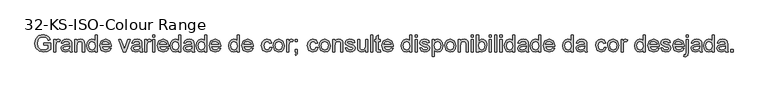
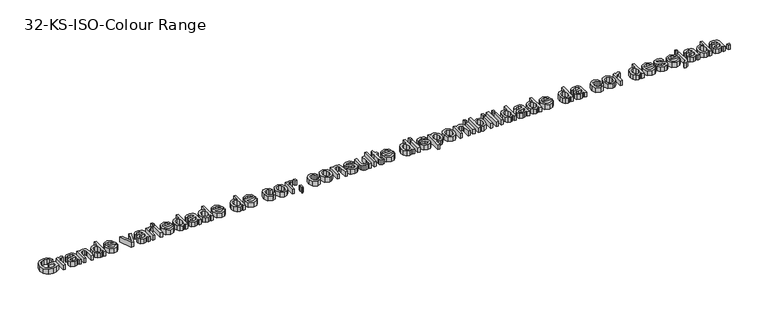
"""IFC4 building model written with IfcOpenShell, lengths in millimetres: proxy geometry, 32-KS-ISO-Colour Range : Kingspan Isoeste Color Range."""

from ifc_helpers import new_model, si_unit, origin, origin_with_axes, place, context, project, spatial, polyline, outline, extrude, source, transform, mapped, element, save


def proxy_32_ks_iso_colour_range_8220f766(model_context):
    return source(origin(), model_context, "Body", "SweptSolid", [
        extrude(outline(polyline([(-1019.1574739, 357.6650582), (-1019.1574739, 363.9435776), (-998.7522859, 363.9435776), (-998.7522859, 345.1693331), (-1008.8261212, 339.246433), (-1019.4763049, 337.2598702), (-1032.8856037, 340.417524), (-1041.9845517, 349.5593916), (-1045.0563663, 362.913508), (-1041.9968144, 376.5680614), (-1033.1983034, 385.9797091), (-1019.979077, 389.0576552), (-1010.1566277, 387.2734275), (-1003.2711031, 382.3070205), (-999.4757871, 373.9990188), (-1005.2637972, 372.3680753), (-1008.1271454, 378.1744795), (-1013.0199759, 381.5222056), (-1020.0771789, 382.7791358), (-1028.1154005, 381.4241038), (-1033.5845795, 377.8679111), (-1036.8158096, 373.0302629), (-1038.777847, 363.1710254), (-1036.4172708, 352.2265361), (-1029.5501402, 345.6782366), (-1019.979077, 343.5383896), (-1011.3890324, 345.150939), (-1005.0308053, 348.5906357), (-1005.0308053, 357.6650582), (-1019.1574739, 357.6650582)])), origin_with_axes(), (0.0, 0.0, 1.0), 15.0),
        extrude(outline(polyline([(-989.3345068, 338.0446852), (-989.3345068, 374.9309865), (-983.8408023, 374.9309865), (-983.8408023, 369.4740703), (-979.9412532, 374.5017909), (-976.0171786, 375.7158015), (-969.7141337, 373.7782896), (-971.8110611, 368.1496951), (-976.225645, 369.4372821), (-979.7757063, 368.198746), (-982.0381806, 364.7651807), (-983.0559874, 357.4320663), (-983.0559874, 338.0446852), (-989.3345068, 338.0446852)])), origin_with_axes(), (0.0, 0.0, 1.0), 15.0),
        extrude(outline(polyline([(-942.2456114, 342.7535747), (-948.3340584, 338.4984063), (-955.0601676, 337.2598702), (-964.1775097, 340.2397144), (-967.359689, 347.8548717), (-966.1579411, 352.8212786), (-963.0002873, 356.4265222), (-958.6040975, 358.4866614), (-953.1717067, 359.4308918), (-942.2823996, 361.5891328), (-943.9746568, 367.6223976), (-950.9153638, 369.4372821), (-957.2674596, 368.2294029), (-960.2963546, 363.9435776), (-966.574874, 364.7283925), (-963.8586786, 370.8597591), (-958.3894996, 374.4527399), (-950.1060234, 375.7158015), (-942.4969974, 374.5998927), (-938.1989095, 371.7978582), (-936.2736604, 367.5365584), (-935.967092, 362.042854), (-935.967092, 354.2314929), (-935.648261, 343.3237918), (-934.3974622, 338.0446852), (-940.6759816, 338.0446852), (-942.2456114, 342.7535747)]), holes=[polyline([(-942.2456114, 355.3106135), (-952.374629, 353.3853644), (-957.776363, 352.3675575), (-960.2227782, 350.7120885), (-961.0811696, 348.2963301), (-959.2111028, 344.899553), (-953.7235297, 343.5383896), (-947.3714339, 345.0405744), (-943.275681, 348.6764748), (-942.2823996, 353.5325172), (-942.2456114, 355.3106135)])]), origin_with_axes(), (0.0, 0.0, 1.0), 15.0),
        extrude(outline(polyline([(-927.3341279, 338.0446852), (-927.3341279, 374.9309865), (-921.0556085, 374.9309865), (-921.0556085, 369.7806386), (-916.2547485, 374.2320107), (-909.7003176, 375.7158015), (-903.7712861, 374.520185), (-899.7245841, 371.3809253), (-897.8422546, 366.7640062), (-897.5111608, 360.6939533), (-897.5111608, 338.0446852), (-903.7896802, 338.0446852), (-903.7896802, 359.8478247), (-904.5131814, 365.4028429), (-907.0699613, 368.3397675), (-911.380312, 369.4372821), (-918.1922603, 366.9724727), (-921.0556085, 357.6160073), (-921.0556085, 338.0446852), (-927.3341279, 338.0446852)])), origin_with_axes(), (0.0, 0.0, 1.0), 15.0),
        extrude(outline(polyline([(-866.1185639, 338.0446852), (-866.1185639, 343.9675853), (-870.2725647, 338.936799), (-876.0145896, 337.2598702), (-883.7891624, 339.6878914), (-889.2828668, 346.4630515), (-891.2326414, 356.4510476), (-889.436151, 366.4451752), (-884.0528111, 373.3245685), (-876.039115, 375.7158015), (-870.251105, 374.0051502), (-866.1185639, 369.5599094), (-866.1185639, 388.2728402), (-859.8400445, 388.2728402), (-859.8400445, 338.0446852), (-866.1185639, 338.0446852)]), holes=[polyline([(-884.954122, 356.4755731), (-882.1214307, 346.7573571), (-875.4382411, 343.5383896), (-868.8347593, 346.6102043), (-866.1185639, 355.9973265), (-868.8838102, 366.1876578), (-875.6957585, 369.4372821), (-882.3053717, 366.3164165), (-884.954122, 356.4755731)])]), origin_with_axes(), (0.0, 0.0, 1.0), 15.0),
        extrude(outline(polyline([(-824.5969494, 349.0320941), (-818.4410573, 348.2472792), (-824.1984105, 340.1416125), (-834.9221707, 337.2598702), (-847.9574561, 342.2324085), (-852.7767102, 356.1812675), (-847.9084051, 370.589979), (-835.27779, 375.7158015), (-823.0089254, 370.6022417), (-818.2448536, 356.2180557), (-818.2816418, 354.5257985), (-846.4981908, 354.5257985), (-842.8868159, 346.371081), (-834.7995434, 343.5383896), (-828.6436513, 344.8505021), (-824.5969494, 349.0320941)]), holes=[polyline([(-846.4981908, 360.8043179), (-824.523373, 360.8043179), (-827.0372333, 366.4942261), (-835.3023154, 369.4372821), (-843.0339687, 367.0889687), (-846.4981908, 360.8043179)])]), origin_with_axes(), (0.0, 0.0, 1.0), 15.0),
        extrude(outline(polyline([(-783.296064, 338.0446852), (-796.2700357, 374.9309865), (-789.6236344, 374.9309865), (-781.7632224, 352.8335414), (-779.3965149, 345.4023251), (-777.0788583, 352.4166084), (-769.1693954, 374.9309865), (-762.522994, 374.9309865), (-775.3375502, 338.0446852), (-783.296064, 338.0446852)])), origin_with_axes(), (0.0, 0.0, 1.0), 15.0),
        extrude(outline(polyline([(-733.4848419, 342.7535747), (-739.5732889, 338.4984063), (-746.2993981, 337.2598702), (-755.4167402, 340.2397144), (-758.5989194, 347.8548717), (-757.3971716, 352.8212786), (-754.2395178, 356.4265222), (-749.8433279, 358.4866614), (-744.4109371, 359.4308918), (-733.5216301, 361.5891328), (-735.2138873, 367.6223976), (-742.1545942, 369.4372821), (-748.50669, 368.2294029), (-751.5355851, 363.9435776), (-757.8141045, 364.7283925), (-755.0979091, 370.8597591), (-749.6287301, 374.4527399), (-741.3452539, 375.7158015), (-733.7362279, 374.5998927), (-729.4381399, 371.7978582), (-727.5128908, 367.5365584), (-727.2063225, 362.042854), (-727.2063225, 354.2314929), (-726.8874914, 343.3237918), (-725.6366927, 338.0446852), (-731.915212, 338.0446852), (-733.4848419, 342.7535747)]), holes=[polyline([(-733.4848419, 355.3106135), (-743.6138595, 353.3853644), (-749.0155935, 352.3675575), (-751.4620087, 350.7120885), (-752.3204, 348.2963301), (-750.4503332, 344.899553), (-744.9627601, 343.5383896), (-738.6106644, 345.0405744), (-734.5149115, 348.6764748), (-733.5216301, 353.5325172), (-733.4848419, 355.3106135)])]), origin_with_axes(), (0.0, 0.0, 1.0), 15.0),
        extrude(outline(polyline([(-718.5733584, 338.0446852), (-718.5733584, 374.9309865), (-713.0796539, 374.9309865), (-713.0796539, 369.4740703), (-709.1801047, 374.5017909), (-705.2560301, 375.7158015), (-698.9529853, 373.7782896), (-701.0499126, 368.1496951), (-705.4644966, 369.4372821), (-709.0145578, 368.198746), (-711.2770321, 364.7651807), (-712.294839, 357.4320663), (-712.294839, 338.0446852), (-718.5733584, 338.0446852)])), origin_with_axes(), (0.0, 0.0, 1.0), 15.0),
        extrude(outline(polyline([(-695.0289107, 381.9943208), (-695.0289107, 388.2728402), (-688.7503913, 388.2728402), (-688.7503913, 381.9943208), (-695.0289107, 381.9943208)])), origin_with_axes(), (0.0, 0.0, 1.0), 15.0),
        extrude(outline(polyline([(-695.0289107, 338.0446852), (-695.0289107, 374.9309865), (-688.7503913, 374.9309865), (-688.7503913, 338.0446852), (-695.0289107, 338.0446852)])), origin_with_axes(), (0.0, 0.0, 1.0), 15.0),
        extrude(outline(polyline([(-653.5072961, 349.0320941), (-647.3514041, 348.2472792), (-653.1087573, 340.1416125), (-663.8325175, 337.2598702), (-676.8678028, 342.2324085), (-681.687057, 356.1812675), (-676.8187519, 370.589979), (-664.1881367, 375.7158015), (-651.9192722, 370.6022417), (-647.1552004, 356.2180557), (-647.1919886, 354.5257985), (-675.4085376, 354.5257985), (-671.7971627, 346.371081), (-663.7098901, 343.5383896), (-657.5539981, 344.8505021), (-653.5072961, 349.0320941)]), holes=[polyline([(-675.4085376, 360.8043179), (-653.4337197, 360.8043179), (-655.94758, 366.4942261), (-664.2126622, 369.4372821), (-671.9443155, 367.0889687), (-675.4085376, 360.8043179)])]), origin_with_axes(), (0.0, 0.0, 1.0), 15.0),
        extrude(outline(polyline([(-618.1170482, 338.0446852), (-618.1170482, 343.9675853), (-622.2710491, 338.936799), (-628.0130739, 337.2598702), (-635.7876467, 339.6878914), (-641.2813512, 346.4630515), (-643.2311257, 356.4510476), (-641.4346353, 366.4451752), (-636.0512955, 373.3245685), (-628.0375993, 375.7158015), (-622.2495893, 374.0051502), (-618.1170482, 369.5599094), (-618.1170482, 388.2728402), (-611.8385288, 388.2728402), (-611.8385288, 338.0446852), (-618.1170482, 338.0446852)]), holes=[polyline([(-636.9526064, 356.4755731), (-634.119915, 346.7573571), (-627.4367254, 343.5383896), (-620.8332436, 346.6102043), (-618.1170482, 355.9973265), (-620.8822945, 366.1876578), (-627.6942428, 369.4372821), (-634.303856, 366.3164165), (-636.9526064, 356.4755731)])]), origin_with_axes(), (0.0, 0.0, 1.0), 15.0),
        extrude(outline(polyline([(-578.876302, 342.7535747), (-584.9647491, 338.4984063), (-591.6908582, 337.2598702), (-600.8082003, 340.2397144), (-603.9903796, 347.8548717), (-602.7886317, 352.8212786), (-599.6309779, 356.4265222), (-595.2347881, 358.4866614), (-589.8023973, 359.4308918), (-578.9130902, 361.5891328), (-580.6053474, 367.6223976), (-587.5460544, 369.4372821), (-593.8981502, 368.2294029), (-596.9270453, 363.9435776), (-603.2055647, 364.7283925), (-600.4893693, 370.8597591), (-595.0201903, 374.4527399), (-586.736714, 375.7158015), (-579.1276881, 374.5998927), (-574.8296001, 371.7978582), (-572.904351, 367.5365584), (-572.5977827, 362.042854), (-572.5977827, 354.2314929), (-572.2789516, 343.3237918), (-571.0281528, 338.0446852), (-577.3066722, 338.0446852), (-578.876302, 342.7535747)]), holes=[polyline([(-578.876302, 355.3106135), (-589.0053196, 353.3853644), (-594.4070536, 352.3675575), (-596.8534689, 350.7120885), (-597.7118602, 348.2963301), (-595.8417934, 344.899553), (-590.3542203, 343.5383896), (-584.0021245, 345.0405744), (-579.9063716, 348.6764748), (-578.9130902, 353.5325172), (-578.876302, 355.3106135)])]), origin_with_axes(), (0.0, 0.0, 1.0), 15.0),
        extrude(outline(polyline([(-541.2051857, 338.0446852), (-541.2051857, 343.9675853), (-545.3591866, 338.936799), (-551.1012114, 337.2598702), (-558.8757842, 339.6878914), (-564.3694887, 346.4630515), (-566.3192633, 356.4510476), (-564.5227729, 366.4451752), (-559.139433, 373.3245685), (-551.1257369, 375.7158015), (-545.3377268, 374.0051502), (-541.2051857, 369.5599094), (-541.2051857, 388.2728402), (-534.9266664, 388.2728402), (-534.9266664, 338.0446852), (-541.2051857, 338.0446852)]), holes=[polyline([(-560.0407439, 356.4755731), (-557.2080525, 346.7573571), (-550.524863, 343.5383896), (-543.9213811, 346.6102043), (-541.2051857, 355.9973265), (-543.9704321, 366.1876578), (-550.7823804, 369.4372821), (-557.3919935, 366.3164165), (-560.0407439, 356.4755731)])]), origin_with_axes(), (0.0, 0.0, 1.0), 15.0),
        extrude(outline(polyline([(-499.6835712, 349.0320941), (-493.5276792, 348.2472792), (-499.2850324, 340.1416125), (-510.0087926, 337.2598702), (-523.0440779, 342.2324085), (-527.8633321, 356.1812675), (-522.995027, 370.589979), (-510.3644118, 375.7158015), (-498.0955473, 370.6022417), (-493.3314754, 356.2180557), (-493.3682636, 354.5257985), (-521.5848127, 354.5257985), (-517.9734377, 346.371081), (-509.8861652, 343.5383896), (-503.7302732, 344.8505021), (-499.6835712, 349.0320941)]), holes=[polyline([(-521.5848127, 360.8043179), (-499.6099948, 360.8043179), (-502.1238551, 366.4942261), (-510.3889373, 369.4372821), (-518.1205905, 367.0889687), (-521.5848127, 360.8043179)])]), origin_with_axes(), (0.0, 0.0, 1.0), 15.0),
        extrude(outline(polyline([(-444.6729502, 338.0446852), (-444.6729502, 343.9675853), (-448.8269511, 338.936799), (-454.5689759, 337.2598702), (-462.3435487, 339.6878914), (-467.8372532, 346.4630515), (-469.7870277, 356.4510476), (-467.9905373, 366.4451752), (-462.6071975, 373.3245685), (-454.5935013, 375.7158015), (-448.8054913, 374.0051502), (-444.6729502, 369.5599094), (-444.6729502, 388.2728402), (-438.3944308, 388.2728402), (-438.3944308, 338.0446852), (-444.6729502, 338.0446852)]), holes=[polyline([(-463.5085084, 356.4755731), (-460.675817, 346.7573571), (-453.9926274, 343.5383896), (-447.3891456, 346.6102043), (-444.6729502, 355.9973265), (-447.4381965, 366.1876578), (-454.2501448, 369.4372821), (-460.859758, 366.3164165), (-463.5085084, 356.4755731)])]), origin_with_axes(), (0.0, 0.0, 1.0), 15.0),
        extrude(outline(polyline([(-403.1513357, 349.0320941), (-396.9954436, 348.2472792), (-402.7527969, 340.1416125), (-413.476557, 337.2598702), (-426.5118424, 342.2324085), (-431.3310965, 356.1812675), (-426.4627914, 370.589979), (-413.8321763, 375.7158015), (-401.5633117, 370.6022417), (-396.7992399, 356.2180557), (-396.8360281, 354.5257985), (-425.0525771, 354.5257985), (-421.4412022, 346.371081), (-413.3539297, 343.5383896), (-407.1980376, 344.8505021), (-403.1513357, 349.0320941)]), holes=[polyline([(-425.0525771, 360.8043179), (-403.0777593, 360.8043179), (-405.5916196, 366.4942261), (-413.8567017, 369.4372821), (-421.588355, 367.0889687), (-425.0525771, 360.8043179)])]), origin_with_axes(), (0.0, 0.0, 1.0), 15.0),
        extrude(outline(polyline([(-347.3558998, 351.3865388), (-341.0773804, 350.6017239), (-346.1173637, 340.7976688), (-356.074703, 337.2598702), (-367.9756856, 342.1956203), (-372.4699773, 356.3529458), (-370.5508595, 366.7824003), (-364.7015358, 373.483984), (-356.1605422, 375.7158015), (-346.6140044, 372.6501182), (-341.8621953, 363.9435776), (-348.1407147, 363.1587627), (-351.0531138, 367.8615209), (-356.1114912, 369.4372821), (-363.3894234, 366.3348106), (-366.1914579, 356.524624), (-363.450737, 346.622467), (-356.2831695, 343.5383896), (-350.3664007, 345.4636387), (-347.3558998, 351.3865388)])), origin_with_axes(), (0.0, 0.0, 1.0), 15.0),
        extrude(outline(polyline([(-337.1533058, 356.4878358), (-335.7952081, 365.3813831), (-331.720915, 371.6323113), (-320.6599296, 375.7158015), (-308.7957353, 370.7432632), (-304.191079, 357.0028706), (-306.2266927, 345.8315207), (-312.1557242, 339.5100818), (-320.6599296, 337.2598702), (-332.5977004, 342.2140144), (-337.1533058, 356.4878358)]), holes=[polyline([(-330.8747864, 356.5000986), (-327.9685186, 346.7696198), (-320.6599296, 343.5383896), (-313.3758661, 346.7880139), (-310.4695984, 356.6963023), (-313.3942602, 366.2060519), (-320.6599296, 369.4372821), (-327.9685186, 366.2183146), (-330.8747864, 356.5000986)])]), origin_with_axes(), (0.0, 0.0, 1.0), 15.0),
        extrude(outline(polyline([(-297.1277447, 338.0446852), (-297.1277447, 374.9309865), (-291.6340402, 374.9309865), (-291.6340402, 369.4740703), (-287.7344911, 374.5017909), (-283.8104165, 375.7158015), (-277.5073716, 373.7782896), (-279.604299, 368.1496951), (-284.0188829, 369.4372821), (-287.5689442, 368.198746), (-289.8314184, 364.7651807), (-290.8492253, 357.4320663), (-290.8492253, 338.0446852), (-297.1277447, 338.0446852)])), origin_with_axes(), (0.0, 0.0, 1.0), 15.0),
        extrude(outline(polyline([(-272.0136671, 368.6524672), (-272.0136671, 374.9309865), (-265.7351478, 374.9309865), (-265.7351478, 368.6524672), (-272.0136671, 368.6524672)])), origin_with_axes(), (0.0, 0.0, 1.0), 15.0),
        extrude(outline(polyline([(-272.0136671, 338.0446852), (-272.0136671, 344.3232045), (-265.7351478, 344.3232045), (-265.7351478, 338.0446852), (-266.8633192, 331.6251443), (-270.4440373, 327.8420912), (-272.0136671, 330.4663161), (-269.7082733, 333.0844096), (-268.8866702, 338.0446852), (-272.0136671, 338.0446852)])), origin_with_axes(), (0.0, 0.0, 1.0), 15.0),
        extrude(outline(polyline([(-210.7981031, 351.3865388), (-204.5195838, 350.6017239), (-209.5595671, 340.7976688), (-219.5169064, 337.2598702), (-231.417889, 342.1956203), (-235.9121807, 356.3529458), (-233.9930629, 366.7824003), (-228.1437392, 373.483984), (-219.6027456, 375.7158015), (-210.0562078, 372.6501182), (-205.3043987, 363.9435776), (-211.5829181, 363.1587627), (-214.4953172, 367.8615209), (-219.5536946, 369.4372821), (-226.8316268, 366.3348106), (-229.6336613, 356.524624), (-226.8929404, 346.622467), (-219.7253729, 343.5383896), (-213.8086041, 345.4636387), (-210.7981031, 351.3865388)])), origin_with_axes(), (0.0, 0.0, 1.0), 15.0),
        extrude(outline(polyline([(-200.5955091, 356.4878358), (-199.2374114, 365.3813831), (-195.1631183, 371.6323113), (-184.102133, 375.7158015), (-172.2379387, 370.7432632), (-167.6332824, 357.0028706), (-169.6688961, 345.8315207), (-175.5979276, 339.5100818), (-184.102133, 337.2598702), (-196.0399038, 342.2140144), (-200.5955091, 356.4878358)]), holes=[polyline([(-194.3169898, 356.5000986), (-191.410722, 346.7696198), (-184.102133, 343.5383896), (-176.8180695, 346.7880139), (-173.9118018, 356.6963023), (-176.8364636, 366.2060519), (-184.102133, 369.4372821), (-191.410722, 366.2183146), (-194.3169898, 356.5000986)])]), origin_with_axes(), (0.0, 0.0, 1.0), 15.0),
        extrude(outline(polyline([(-160.5699481, 338.0446852), (-160.5699481, 374.9309865), (-154.2914287, 374.9309865), (-154.2914287, 369.7806386), (-149.4905686, 374.2320107), (-142.9361378, 375.7158015), (-137.0071063, 374.520185), (-132.9604043, 371.3809253), (-131.0780748, 366.7640062), (-130.746981, 360.6939533), (-130.746981, 338.0446852), (-137.0255004, 338.0446852), (-137.0255004, 359.8478247), (-137.7490016, 365.4028429), (-140.3057815, 368.3397675), (-144.6161322, 369.4372821), (-151.4280805, 366.9724727), (-154.2914287, 357.6160073), (-154.2914287, 338.0446852), (-160.5699481, 338.0446852)])), origin_with_axes(), (0.0, 0.0, 1.0), 15.0),
        extrude(outline(polyline([(-124.4684616, 349.0320941), (-118.1899422, 349.816909), (-115.2836745, 345.1570704), (-108.6250103, 343.5383896), (-102.2238636, 345.0221803), (-100.139199, 348.5047966), (-102.2361264, 351.3252252), (-108.6985867, 353.1155842), (-118.153154, 356.1873989), (-122.2795637, 359.7742483), (-123.6836467, 364.8387571), (-122.5554752, 369.5169898), (-119.4775292, 373.0915766), (-115.4860096, 374.9493806), (-110.0842756, 375.7158015), (-102.4445928, 374.4833968), (-97.5885505, 371.1479334), (-95.4303095, 365.5132075), (-101.7088288, 364.7283925), (-104.069405, 368.1926147), (-109.5937663, 369.4372821), (-115.6025055, 368.247797), (-117.4051273, 365.4764193), (-116.6571006, 363.649272), (-114.3149185, 362.2635832), (-108.9070532, 360.9269453), (-99.6916092, 357.9716266), (-95.4119154, 354.6239004), (-93.8606796, 349.1669841), (-95.6816955, 343.1582449), (-100.9362766, 338.7988432), (-108.7108495, 337.2598702), (-119.6614702, 340.2274517), (-124.4684616, 349.0320941)])), origin_with_axes(), (0.0, 0.0, 1.0), 15.0),
        extrude(outline(polyline([(-63.2528976, 338.0446852), (-63.2528976, 344.3845182), (-68.1702536, 339.0410322), (-74.5836631, 337.2598702), (-80.4881691, 338.510669), (-84.5593965, 341.6499287), (-86.4294633, 346.2729791), (-86.7973453, 352.1100401), (-86.7973453, 374.9309865), (-80.5188259, 374.9309865), (-80.5188259, 355.0653588), (-80.1386812, 348.6642121), (-77.6554777, 344.9056844), (-72.977245, 343.5383896), (-67.7349266, 344.9363412), (-64.2707045, 348.7439198), (-63.2528976, 355.7398091), (-63.2528976, 374.9309865), (-56.9743782, 374.9309865), (-56.9743782, 338.0446852), (-63.2528976, 338.0446852)])), origin_with_axes(), (0.0, 0.0, 1.0), 15.0),
        extrude(outline(polyline([(-48.3414141, 338.0446852), (-48.3414141, 388.2728402), (-42.0628947, 388.2728402), (-42.0628947, 338.0446852), (-48.3414141, 338.0446852)])), origin_with_axes(), (0.0, 0.0, 1.0), 15.0),
        extrude(outline(polyline([(-19.3032619, 343.2808722), (-18.518447, 337.8607442), (-23.2150738, 337.2598702), (-28.4757863, 338.3022026), (-31.1000112, 341.036792), (-31.8603007, 348.16144), (-31.8603007, 368.6524672), (-36.5691902, 368.6524672), (-36.5691902, 374.9309865), (-31.8603007, 374.9309865), (-31.8603007, 383.8950445), (-25.5817813, 387.5861272), (-25.5817813, 374.9309865), (-19.3032619, 374.9309865), (-19.3032619, 368.6524672), (-25.5817813, 368.6524672), (-25.5817813, 348.345381), (-25.2506875, 345.1080195), (-22.0378514, 343.5383896), (-19.3032619, 343.2808722)])), origin_with_axes(), (0.0, 0.0, 1.0), 15.0),
        extrude(outline(polyline([(12.8005735, 349.0320941), (18.9564656, 348.2472792), (13.1991124, 340.1416125), (2.4753522, 337.2598702), (-10.5599332, 342.2324085), (-15.3791873, 356.1812675), (-10.5108822, 370.589979), (2.1197329, 375.7158015), (14.3885975, 370.6022417), (19.1526693, 356.2180557), (19.1158811, 354.5257985), (-9.1006679, 354.5257985), (-5.489293, 346.371081), (2.5979795, 343.5383896), (8.7538716, 344.8505021), (12.8005735, 349.0320941)]), holes=[polyline([(-9.1006679, 360.8043179), (12.8741499, 360.8043179), (10.3602896, 366.4942261), (2.0952075, 369.4372821), (-5.6364458, 367.0889687), (-9.1006679, 360.8043179)])]), origin_with_axes(), (0.0, 0.0, 1.0), 15.0),
        extrude(outline(polyline([(67.8111945, 338.0446852), (67.8111945, 343.9675853), (63.6571937, 338.936799), (57.9151689, 337.2598702), (50.140596, 339.6878914), (44.6468916, 346.4630515), (42.697117, 356.4510476), (44.4936074, 366.4451752), (49.8769473, 373.3245685), (57.8906434, 375.7158015), (63.6786535, 374.0051502), (67.8111945, 369.5599094), (67.8111945, 388.2728402), (74.0897139, 388.2728402), (74.0897139, 338.0446852), (67.8111945, 338.0446852)]), holes=[polyline([(48.9756364, 356.4755731), (51.8083277, 346.7573571), (58.4915173, 343.5383896), (65.0949991, 346.6102043), (67.8111945, 355.9973265), (65.0459482, 366.1876578), (58.2339999, 369.4372821), (51.6243868, 366.3164165), (48.9756364, 356.4755731)])]), origin_with_axes(), (0.0, 0.0, 1.0), 15.0),
        extrude(outline(polyline([(83.507493, 381.9943208), (83.507493, 388.2728402), (89.7860124, 388.2728402), (89.7860124, 381.9943208), (83.507493, 381.9943208)])), origin_with_axes(), (0.0, 0.0, 1.0), 15.0),
        extrude(outline(polyline([(83.507493, 338.0446852), (83.507493, 374.9309865), (89.7860124, 374.9309865), (89.7860124, 338.0446852), (83.507493, 338.0446852)])), origin_with_axes(), (0.0, 0.0, 1.0), 15.0),
        extrude(outline(polyline([(96.8493467, 349.0320941), (103.1278661, 349.816909), (106.0341338, 345.1570704), (112.692798, 343.5383896), (119.0939447, 345.0221803), (121.1786093, 348.5047966), (119.0816819, 351.3252252), (112.6192216, 353.1155842), (103.1646543, 356.1873989), (99.0382446, 359.7742483), (97.6341616, 364.8387571), (98.7623331, 369.5169898), (101.8402791, 373.0915766), (105.8317987, 374.9493806), (111.2335327, 375.7158015), (118.8732155, 374.4833968), (123.7292578, 371.1479334), (125.8874988, 365.5132075), (119.6089795, 364.7283925), (117.2484033, 368.1926147), (111.724042, 369.4372821), (105.7153028, 368.247797), (103.912681, 365.4764193), (104.6607077, 363.649272), (107.0028898, 362.2635832), (112.4107551, 360.9269453), (121.6261991, 357.9716266), (125.9058929, 354.6239004), (127.4571287, 349.1669841), (125.6361128, 343.1582449), (120.3815316, 338.7988432), (112.6069588, 337.2598702), (101.6563381, 340.2274517), (96.8493467, 349.0320941)])), origin_with_axes(), (0.0, 0.0, 1.0), 15.0),
        extrude(outline(polyline([(134.520463, 323.9180165), (134.520463, 374.9309865), (140.7989824, 374.9309865), (140.7989824, 368.7750945), (145.1399899, 373.9806247), (151.0015764, 375.7158015), (158.9600902, 373.2877803), (164.1594891, 366.4451752), (165.9130599, 356.7698787), (163.9326285, 346.5979415), (158.1814067, 339.6694973), (150.2412869, 337.2598702), (144.7782393, 338.8724196), (140.7989824, 342.9497784), (140.7989824, 323.9180165), (134.520463, 323.9180165)]), holes=[polyline([(140.7989824, 356.1935303), (143.5151778, 346.6285984), (150.1063969, 343.5383896), (156.832506, 346.738963), (159.6345405, 356.6595141), (156.899951, 366.2489715), (150.3639143, 369.4372821), (143.6991188, 366.0466364), (140.7989824, 356.1935303)])]), origin_with_axes(), (0.0, 0.0, 1.0), 15.0),
        extrude(outline(polyline([(171.4067644, 356.4878358), (172.7648621, 365.3813831), (176.8391552, 371.6323113), (187.9001405, 375.7158015), (199.7643348, 370.7432632), (204.3689911, 357.0028706), (202.3333774, 345.8315207), (196.404346, 339.5100818), (187.9001405, 337.2598702), (175.9623698, 342.2140144), (171.4067644, 356.4878358)]), holes=[polyline([(177.6852838, 356.5000986), (180.5915515, 346.7696198), (187.9001405, 343.5383896), (195.184204, 346.7880139), (198.0904718, 356.6963023), (195.1658099, 366.2060519), (187.9001405, 369.4372821), (180.5915515, 366.2183146), (177.6852838, 356.5000986)])]), origin_with_axes(), (0.0, 0.0, 1.0), 15.0),
        extrude(outline(polyline([(211.4323255, 338.0446852), (211.4323255, 374.9309865), (217.7108448, 374.9309865), (217.7108448, 369.7806386), (222.5117049, 374.2320107), (229.0661358, 375.7158015), (234.9951672, 374.520185), (239.0418692, 371.3809253), (240.9241987, 366.7640062), (241.2552925, 360.6939533), (241.2552925, 338.0446852), (234.9767731, 338.0446852), (234.9767731, 359.8478247), (234.2532719, 365.4028429), (231.696492, 368.3397675), (227.3861413, 369.4372821), (220.574193, 366.9724727), (217.7108448, 357.6160073), (217.7108448, 338.0446852), (211.4323255, 338.0446852)])), origin_with_axes(), (0.0, 0.0, 1.0), 15.0),
        extrude(outline(polyline([(249.8882567, 381.9943208), (249.8882567, 388.2728402), (256.1667761, 388.2728402), (256.1667761, 381.9943208), (249.8882567, 381.9943208)])), origin_with_axes(), (0.0, 0.0, 1.0), 15.0),
        extrude(outline(polyline([(249.8882567, 338.0446852), (249.8882567, 374.9309865), (256.1667761, 374.9309865), (256.1667761, 338.0446852), (249.8882567, 338.0446852)])), origin_with_axes(), (0.0, 0.0, 1.0), 15.0),
        extrude(outline(polyline([(271.8630745, 338.0446852), (265.5845551, 338.0446852), (265.5845551, 388.2728402), (271.8630745, 388.2728402), (271.8630745, 369.6457485), (281.722312, 375.7158015), (288.0130941, 374.3485067), (292.8936619, 370.5041399), (295.8919002, 364.5260574), (296.9771521, 357.0396588), (292.4828604, 342.4224809), (281.6855238, 337.2598702), (276.1029145, 338.9245363), (271.8630745, 343.9185343), (271.8630745, 338.0446852)]), holes=[polyline([(271.8630745, 356.7453532), (273.5798572, 347.9652363), (281.1459635, 343.5383896), (287.8659413, 346.8002766), (290.6986327, 356.524624), (287.9824373, 366.2857597), (281.4157437, 369.4372821), (274.6957659, 366.1753951), (271.8630745, 356.7453532)])]), origin_with_axes(), (0.0, 0.0, 1.0), 15.0),
        extrude(outline(polyline([(304.0404864, 381.9943208), (304.0404864, 388.2728402), (310.3190058, 388.2728402), (310.3190058, 381.9943208), (304.0404864, 381.9943208)])), origin_with_axes(), (0.0, 0.0, 1.0), 15.0),
        extrude(outline(polyline([(304.0404864, 338.0446852), (304.0404864, 374.9309865), (310.3190058, 374.9309865), (310.3190058, 338.0446852), (304.0404864, 338.0446852)])), origin_with_axes(), (0.0, 0.0, 1.0), 15.0),
        extrude(outline(polyline([(319.7367848, 338.0446852), (319.7367848, 388.2728402), (326.0153042, 388.2728402), (326.0153042, 338.0446852), (319.7367848, 338.0446852)])), origin_with_axes(), (0.0, 0.0, 1.0), 15.0),
        extrude(outline(polyline([(335.4330833, 381.9943208), (335.4330833, 388.2728402), (341.7116027, 388.2728402), (341.7116027, 381.9943208), (335.4330833, 381.9943208)])), origin_with_axes(), (0.0, 0.0, 1.0), 15.0),
        extrude(outline(polyline([(335.4330833, 338.0446852), (335.4330833, 374.9309865), (341.7116027, 374.9309865), (341.7116027, 338.0446852), (335.4330833, 338.0446852)])), origin_with_axes(), (0.0, 0.0, 1.0), 15.0),
        extrude(outline(polyline([(373.8890145, 338.0446852), (373.8890145, 343.9675853), (369.7350137, 338.936799), (363.9929889, 337.2598702), (356.218416, 339.6878914), (350.7247116, 346.4630515), (348.774937, 356.4510476), (350.5714274, 366.4451752), (355.9547673, 373.3245685), (363.9684634, 375.7158015), (369.7564734, 374.0051502), (373.8890145, 369.5599094), (373.8890145, 388.2728402), (380.1675339, 388.2728402), (380.1675339, 338.0446852), (373.8890145, 338.0446852)]), holes=[polyline([(355.0534564, 356.4755731), (357.8861477, 346.7573571), (364.5693373, 343.5383896), (371.1728191, 346.6102043), (373.8890145, 355.9973265), (371.1237682, 366.1876578), (364.3118199, 369.4372821), (357.7022067, 366.3164165), (355.0534564, 356.4755731)])]), origin_with_axes(), (0.0, 0.0, 1.0), 15.0),
        extrude(outline(polyline([(413.1297607, 342.7535747), (407.0413137, 338.4984063), (400.3152045, 337.2598702), (391.1978624, 340.2397144), (388.0156831, 347.8548717), (389.217431, 352.8212786), (392.3750848, 356.4265222), (396.7712746, 358.4866614), (402.2036654, 359.4308918), (413.0929725, 361.5891328), (411.4007153, 367.6223976), (404.4600083, 369.4372821), (398.1079125, 368.2294029), (395.0790174, 363.9435776), (388.8004981, 364.7283925), (391.5166935, 370.8597591), (396.9858725, 374.4527399), (405.2693487, 375.7158015), (412.8783746, 374.5998927), (417.1764626, 371.7978582), (419.1017117, 367.5365584), (419.4082801, 362.042854), (419.4082801, 354.2314929), (419.7271111, 343.3237918), (420.9779099, 338.0446852), (414.6993905, 338.0446852), (413.1297607, 342.7535747)]), holes=[polyline([(413.1297607, 355.3106135), (403.0007431, 353.3853644), (397.5990091, 352.3675575), (395.1525938, 350.7120885), (394.2942025, 348.2963301), (396.1642693, 344.899553), (401.6518424, 343.5383896), (408.0039382, 345.0405744), (412.0996911, 348.6764748), (413.0929725, 353.5325172), (413.1297607, 355.3106135)])]), origin_with_axes(), (0.0, 0.0, 1.0), 15.0),
        extrude(outline(polyline([(450.800877, 338.0446852), (450.800877, 343.9675853), (446.6468761, 338.936799), (440.9048513, 337.2598702), (433.1302785, 339.6878914), (427.636574, 346.4630515), (425.6867994, 356.4510476), (427.4832899, 366.4451752), (432.8666297, 373.3245685), (440.8803258, 375.7158015), (446.6683359, 374.0051502), (450.800877, 369.5599094), (450.800877, 388.2728402), (457.0793964, 388.2728402), (457.0793964, 338.0446852), (450.800877, 338.0446852)]), holes=[polyline([(431.9653188, 356.4755731), (434.7980102, 346.7573571), (441.4811998, 343.5383896), (448.0846816, 346.6102043), (450.800877, 355.9973265), (448.0356307, 366.1876578), (441.2236824, 369.4372821), (434.6140692, 366.3164165), (431.9653188, 356.4755731)])]), origin_with_axes(), (0.0, 0.0, 1.0), 15.0),
        extrude(outline(polyline([(492.3224915, 349.0320941), (498.4783836, 348.2472792), (492.7210303, 340.1416125), (481.9972702, 337.2598702), (468.9619848, 342.2324085), (464.1427307, 356.1812675), (469.0110357, 370.589979), (481.6416509, 375.7158015), (493.9105155, 370.6022417), (498.6745873, 356.2180557), (498.6377991, 354.5257985), (470.4212501, 354.5257985), (474.032625, 346.371081), (482.1198975, 343.5383896), (488.2757896, 344.8505021), (492.3224915, 349.0320941)]), holes=[polyline([(470.4212501, 360.8043179), (492.3960679, 360.8043179), (489.8822076, 366.4942261), (481.6171254, 369.4372821), (473.8854722, 367.0889687), (470.4212501, 360.8043179)])]), origin_with_axes(), (0.0, 0.0, 1.0), 15.0),
        extrude(outline(polyline([(547.3331125, 338.0446852), (547.3331125, 343.9675853), (543.1791117, 338.936799), (537.4370868, 337.2598702), (529.662514, 339.6878914), (524.1688096, 346.4630515), (522.219035, 356.4510476), (524.0155254, 366.4451752), (529.3988653, 373.3245685), (537.4125614, 375.7158015), (543.2005714, 374.0051502), (547.3331125, 369.5599094), (547.3331125, 388.2728402), (553.6116319, 388.2728402), (553.6116319, 338.0446852), (547.3331125, 338.0446852)]), holes=[polyline([(528.4975544, 356.4755731), (531.3302457, 346.7573571), (538.0134353, 343.5383896), (544.6169171, 346.6102043), (547.3331125, 355.9973265), (544.5678662, 366.1876578), (537.7559179, 369.4372821), (531.1463047, 366.3164165), (528.4975544, 356.4755731)])]), origin_with_axes(), (0.0, 0.0, 1.0), 15.0),
        extrude(outline(polyline([(586.5738587, 342.7535747), (580.4854117, 338.4984063), (573.7593025, 337.2598702), (564.6419604, 340.2397144), (561.4597811, 347.8548717), (562.661529, 352.8212786), (565.8191828, 356.4265222), (570.2153726, 358.4866614), (575.6477634, 359.4308918), (586.5370705, 361.5891328), (584.8448133, 367.6223976), (577.9041063, 369.4372821), (571.5520105, 368.2294029), (568.5231154, 363.9435776), (562.2445961, 364.7283925), (564.9607915, 370.8597591), (570.4299704, 374.4527399), (578.7134467, 375.7158015), (586.3224726, 374.5998927), (590.6205606, 371.7978582), (592.5458097, 367.5365584), (592.8523781, 362.042854), (592.8523781, 354.2314929), (593.1712091, 343.3237918), (594.4220079, 338.0446852), (588.1434885, 338.0446852), (586.5738587, 342.7535747)]), holes=[polyline([(586.5738587, 355.3106135), (576.4448411, 353.3853644), (571.0431071, 352.3675575), (568.5966918, 350.7120885), (567.7383005, 348.2963301), (569.6083673, 344.899553), (575.0959404, 343.5383896), (581.4480362, 345.0405744), (585.5437891, 348.6764748), (586.5370705, 353.5325172), (586.5738587, 355.3106135)])]), origin_with_axes(), (0.0, 0.0, 1.0), 15.0),
        extrude(outline(polyline([(644.650163, 351.3865388), (650.9286824, 350.6017239), (645.888699, 340.7976688), (635.9313597, 337.2598702), (624.0303771, 342.1956203), (619.5360854, 356.3529458), (621.4552032, 366.7824003), (627.3045269, 373.483984), (635.8455206, 375.7158015), (645.3920583, 372.6501182), (650.1438674, 363.9435776), (643.8653481, 363.1587627), (640.9529489, 367.8615209), (635.8945715, 369.4372821), (628.6166394, 366.3348106), (625.8146048, 356.524624), (628.5553257, 346.622467), (635.7228932, 343.5383896), (641.639662, 345.4636387), (644.650163, 351.3865388)])), origin_with_axes(), (0.0, 0.0, 1.0), 15.0),
        extrude(outline(polyline([(654.852757, 356.4878358), (656.2108547, 365.3813831), (660.2851478, 371.6323113), (671.3461331, 375.7158015), (683.2103274, 370.7432632), (687.8149837, 357.0028706), (685.77937, 345.8315207), (679.8503385, 339.5100818), (671.3461331, 337.2598702), (659.4083623, 342.2140144), (654.852757, 356.4878358)]), holes=[polyline([(661.1312764, 356.5000986), (664.0375441, 346.7696198), (671.3461331, 343.5383896), (678.6301966, 346.7880139), (681.5364644, 356.6963023), (678.6118025, 366.2060519), (671.3461331, 369.4372821), (664.0375441, 366.2183146), (661.1312764, 356.5000986)])]), origin_with_axes(), (0.0, 0.0, 1.0), 15.0),
        extrude(outline(polyline([(694.8783181, 338.0446852), (694.8783181, 374.9309865), (700.3720225, 374.9309865), (700.3720225, 369.4740703), (704.2715717, 374.5017909), (708.1956463, 375.7158015), (714.4986911, 373.7782896), (712.4017638, 368.1496951), (707.9871798, 369.4372821), (704.4371186, 368.198746), (702.1746443, 364.7651807), (701.1568374, 357.4320663), (701.1568374, 338.0446852), (694.8783181, 338.0446852)])), origin_with_axes(), (0.0, 0.0, 1.0), 15.0),
        extrude(outline(polyline([(760.8027716, 338.0446852), (760.8027716, 343.9675853), (756.6487707, 338.936799), (750.9067459, 337.2598702), (743.1321731, 339.6878914), (737.6384686, 346.4630515), (735.688694, 356.4510476), (737.4851845, 366.4451752), (742.8685243, 373.3245685), (750.8822205, 375.7158015), (756.6702305, 374.0051502), (760.8027716, 369.5599094), (760.8027716, 388.2728402), (767.081291, 388.2728402), (767.081291, 338.0446852), (760.8027716, 338.0446852)]), holes=[polyline([(741.9672134, 356.4755731), (744.7999048, 346.7573571), (751.4830944, 343.5383896), (758.0865762, 346.6102043), (760.8027716, 355.9973265), (758.0375253, 366.1876578), (751.225577, 369.4372821), (744.6159638, 366.3164165), (741.9672134, 356.4755731)])]), origin_with_axes(), (0.0, 0.0, 1.0), 15.0),
        extrude(outline(polyline([(802.3243861, 349.0320941), (808.4802782, 348.2472792), (802.7229249, 340.1416125), (791.9991648, 337.2598702), (778.9638794, 342.2324085), (774.1446253, 356.1812675), (779.0129303, 370.589979), (791.6435455, 375.7158015), (803.9124101, 370.6022417), (808.6764819, 356.2180557), (808.6396937, 354.5257985), (780.4231447, 354.5257985), (784.0345196, 346.371081), (792.1217921, 343.5383896), (798.2776842, 344.8505021), (802.3243861, 349.0320941)]), holes=[polyline([(780.4231447, 360.8043179), (802.3979625, 360.8043179), (799.8841022, 366.4942261), (791.61902, 369.4372821), (783.8873668, 367.0889687), (780.4231447, 360.8043179)])]), origin_with_axes(), (0.0, 0.0, 1.0), 15.0),
        extrude(outline(polyline([(812.6005565, 349.0320941), (818.8790759, 349.816909), (821.7853437, 345.1570704), (828.4440078, 343.5383896), (834.8451545, 345.0221803), (836.9298191, 348.5047966), (834.8328917, 351.3252252), (828.3704314, 353.1155842), (818.9158641, 356.1873989), (814.7894544, 359.7742483), (813.3853714, 364.8387571), (814.5135429, 369.5169898), (817.5914889, 373.0915766), (821.5830086, 374.9493806), (826.9847425, 375.7158015), (834.6244253, 374.4833968), (839.4804676, 371.1479334), (841.6387087, 365.5132075), (835.3601893, 364.7283925), (832.9996131, 368.1926147), (827.4752518, 369.4372821), (821.4665126, 368.247797), (819.6638908, 365.4764193), (820.4119175, 363.649272), (822.7540996, 362.2635832), (828.1619649, 360.9269453), (837.3774089, 357.9716266), (841.6571028, 354.6239004), (843.2083385, 349.1669841), (841.3873226, 343.1582449), (836.1327415, 338.7988432), (828.3581686, 337.2598702), (817.4075479, 340.2274517), (812.6005565, 349.0320941)])), origin_with_axes(), (0.0, 0.0, 1.0), 15.0),
        extrude(outline(polyline([(888.727604, 381.9943208), (888.727604, 388.2728402), (895.0061234, 388.2728402), (895.0061234, 381.9943208), (888.727604, 381.9943208)])), origin_with_axes(), (0.0, 0.0, 1.0), 15.0),
        extrude(outline(polyline([(880.8181411, 323.8934911), (882.1425163, 329.8654421), (885.0242586, 329.411721), (887.8140304, 330.6563884), (888.727604, 336.8797255), (888.727604, 374.9309865), (895.0061234, 374.9309865), (895.0061234, 336.0703851), (893.2280271, 326.6035551), (885.7232344, 323.1332016), (880.8181411, 323.8934911)])), origin_with_axes(), (0.0, 0.0, 1.0), 15.0),
        extrude(outline(polyline([(876.0969889, 349.0320941), (882.2528809, 348.2472792), (876.4955277, 340.1416125), (865.7717675, 337.2598702), (852.7364822, 342.2324085), (847.917228, 356.1812675), (852.7855331, 370.589979), (865.4161483, 375.7158015), (877.6850128, 370.6022417), (882.4490847, 356.2180557), (882.4122965, 354.5257985), (854.1957474, 354.5257985), (857.8071223, 346.371081), (865.8943949, 343.5383896), (872.0502869, 344.8505021), (876.0969889, 349.0320941)]), holes=[polyline([(854.1957474, 360.8043179), (876.1705653, 360.8043179), (873.656705, 366.4942261), (865.3916228, 369.4372821), (857.6599696, 367.0889687), (854.1957474, 360.8043179)])]), origin_with_axes(), (0.0, 0.0, 1.0), 15.0),
        extrude(outline(polyline([(927.9683502, 342.7535747), (921.8799032, 338.4984063), (915.153794, 337.2598702), (906.0364519, 340.2397144), (902.8542727, 347.8548717), (904.0560205, 352.8212786), (907.2136743, 356.4265222), (911.6098641, 358.4866614), (917.0422549, 359.4308918), (927.931562, 361.5891328), (926.2393048, 367.6223976), (919.2985978, 369.4372821), (912.9465021, 368.2294029), (909.917607, 363.9435776), (903.6390876, 364.7283925), (906.355283, 370.8597591), (911.824462, 374.4527399), (920.1079382, 375.7158015), (927.7169642, 374.5998927), (932.0150521, 371.7978582), (933.9403013, 367.5365584), (934.2468696, 362.042854), (934.2468696, 354.2314929), (934.5657006, 343.3237918), (935.8164994, 338.0446852), (929.53798, 338.0446852), (927.9683502, 342.7535747)]), holes=[polyline([(927.9683502, 355.3106135), (917.8393326, 353.3853644), (912.4375986, 352.3675575), (909.9911834, 350.7120885), (909.132792, 348.2963301), (911.0028589, 344.899553), (916.4904319, 343.5383896), (922.8425277, 345.0405744), (926.9382806, 348.6764748), (927.931562, 353.5325172), (927.9683502, 355.3106135)])]), origin_with_axes(), (0.0, 0.0, 1.0), 15.0),
        extrude(outline(polyline([(965.6394665, 338.0446852), (965.6394665, 343.9675853), (961.4854656, 338.936799), (955.7434408, 337.2598702), (947.968868, 339.6878914), (942.4751635, 346.4630515), (940.525389, 356.4510476), (942.3218794, 366.4451752), (947.7052192, 373.3245685), (955.7189154, 375.7158015), (961.5069254, 374.0051502), (965.6394665, 369.5599094), (965.6394665, 388.2728402), (971.9179859, 388.2728402), (971.9179859, 338.0446852), (965.6394665, 338.0446852)]), holes=[polyline([(946.8039083, 356.4755731), (949.6365997, 346.7573571), (956.3197893, 343.5383896), (962.9232711, 346.6102043), (965.6394665, 355.9973265), (962.8742202, 366.1876578), (956.0622719, 369.4372821), (949.4526587, 366.3164165), (946.8039083, 356.4755731)])]), origin_with_axes(), (0.0, 0.0, 1.0), 15.0),
        extrude(outline(polyline([(1004.8802127, 342.7535747), (998.7917656, 338.4984063), (992.0656565, 337.2598702), (982.9483144, 340.2397144), (979.7661351, 347.8548717), (980.967883, 352.8212786), (984.1255368, 356.4265222), (988.5217266, 358.4866614), (993.9541174, 359.4308918), (1004.8434245, 361.5891328), (1003.1511673, 367.6223976), (996.2104603, 369.4372821), (989.8583645, 368.2294029), (986.8294694, 363.9435776), (980.55095, 364.7283925), (983.2671454, 370.8597591), (988.7363244, 374.4527399), (997.0198007, 375.7158015), (1004.6288266, 374.5998927), (1008.9269146, 371.7978582), (1010.8521637, 367.5365584), (1011.158732, 362.042854), (1011.158732, 354.2314929), (1011.4775631, 343.3237918), (1012.7283619, 338.0446852), (1006.4498425, 338.0446852), (1004.8802127, 342.7535747)]), holes=[polyline([(1004.8802127, 355.3106135), (994.7511951, 353.3853644), (989.3494611, 352.3675575), (986.9030458, 350.7120885), (986.0446545, 348.2963301), (987.9147213, 344.899553), (993.4022944, 343.5383896), (999.7543902, 345.0405744), (1003.8501431, 348.6764748), (1004.8434245, 353.5325172), (1004.8802127, 355.3106135)])]), origin_with_axes(), (0.0, 0.0, 1.0), 15.0),
        extrude(outline(polyline([(1021.361326, 338.0446852), (1021.361326, 344.3232045), (1027.6398454, 344.3232045), (1027.6398454, 338.0446852), (1021.361326, 338.0446852)])), origin_with_axes(), (0.0, 0.0, 1.0), 15.0),
    ])


if __name__ == "__main__":
    model = new_model("IFC4")
    model_context = context("Model", 3, world=origin())
    ifc_project = project(units=[si_unit("LENGTHUNIT", "METRE", prefix="MILLI")], contexts=[model_context])
    site = spatial("IfcSite", under=ifc_project)
    building = spatial("IfcBuilding", under=site)
    placement = place(None, origin())
    proxy_32_ks_iso_colour_range_shape = proxy_32_ks_iso_colour_range_8220f766(model_context)
    element("IfcBuildingElementProxy", 1, Name="32-KS-ISO-Colour Range : Kingspan Isoeste Color Range", ObjectType="32-KS-ISO-Colour Range : Kingspan Isoeste Color Range", at=placement, inside=building, context=model_context, shape_type="MappedRepresentation", body=[
        mapped(proxy_32_ks_iso_colour_range_shape, transform((0.0, 0.0, 0.0), x_axis=(1.0, 0.0, 0.0), y_axis=(0.0, 1.0, 0.0), z_axis=(0.0, 0.0, 1.0))),
    ])
    save(model, "model.ifc")
